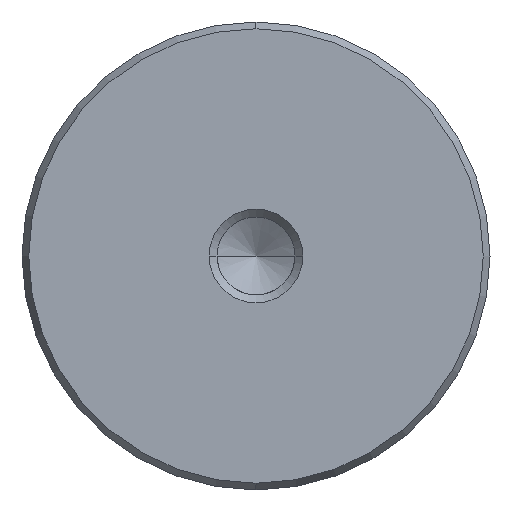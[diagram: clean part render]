
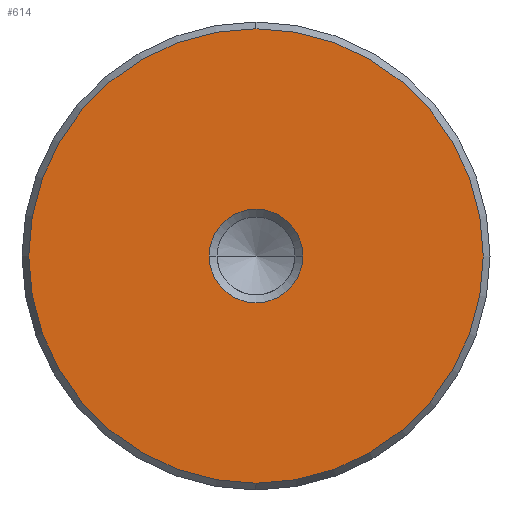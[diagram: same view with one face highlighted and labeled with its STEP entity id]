
A CAD part, left-side view. The second image highlights one B-rep face of the part: STEP entity #614.
In plain terms, the highlighted planar face has unit normal (-1, 0, 0).
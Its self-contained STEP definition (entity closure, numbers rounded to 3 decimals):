
#528=CARTESIAN_POINT('Vertex',(0.,0.,-19.423)) ;
#531=CARTESIAN_POINT('Axis2P3D Location',(0.,0.,0.)) ;
#535=CARTESIAN_POINT('Vertex',(0.,19.423,0.)) ;
#538=CARTESIAN_POINT('Axis2P3D Location',(0.,0.,0.)) ;
#542=CARTESIAN_POINT('Vertex',(0.,0.,19.423)) ;
#564=CARTESIAN_POINT('Axis2P3D Location',(0.,0.,0.)) ;
#568=CARTESIAN_POINT('Vertex',(0.,-19.423,0.)) ;
#571=CARTESIAN_POINT('Axis2P3D Location',(0.,0.,0.)) ;
#585=CARTESIAN_POINT('Axis2P3D Location',(0.,0.,0.)) ;
#596=CARTESIAN_POINT('Axis2P3D Location',(0.,0.,0.)) ;
#600=CARTESIAN_POINT('Vertex',(0.,4.,0.)) ;
#602=CARTESIAN_POINT('Vertex',(0.,-4.,0.)) ;
#605=CARTESIAN_POINT('Axis2P3D Location',(0.,0.,0.)) ;
#532=DIRECTION('Axis2P3D Direction',(1.,0.,-0.)) ;
#539=DIRECTION('Axis2P3D Direction',(1.,0.,-0.)) ;
#565=DIRECTION('Axis2P3D Direction',(1.,0.,-0.)) ;
#572=DIRECTION('Axis2P3D Direction',(1.,0.,-0.)) ;
#586=DIRECTION('Axis2P3D Direction',(1.,0.,-0.)) ;
#587=DIRECTION('Axis2P3D XDirection',(-0.,0.,-1.)) ;
#597=DIRECTION('Axis2P3D Direction',(1.,0.,-0.)) ;
#606=DIRECTION('Axis2P3D Direction',(1.,0.,-0.)) ;
#533=AXIS2_PLACEMENT_3D('Circle Axis2P3D',#531,#532,$) ;
#540=AXIS2_PLACEMENT_3D('Circle Axis2P3D',#538,#539,$) ;
#566=AXIS2_PLACEMENT_3D('Circle Axis2P3D',#564,#565,$) ;
#573=AXIS2_PLACEMENT_3D('Circle Axis2P3D',#571,#572,$) ;
#588=AXIS2_PLACEMENT_3D('Plane Axis2P3D',#585,#586,#587) ;
#598=AXIS2_PLACEMENT_3D('Circle Axis2P3D',#596,#597,$) ;
#607=AXIS2_PLACEMENT_3D('Circle Axis2P3D',#605,#606,$) ;
#591=ORIENTED_EDGE('',*,*,#537,.F.) ;
#592=ORIENTED_EDGE('',*,*,#575,.F.) ;
#593=ORIENTED_EDGE('',*,*,#570,.F.) ;
#594=ORIENTED_EDGE('',*,*,#544,.F.) ;
#611=ORIENTED_EDGE('',*,*,#604,.T.) ;
#612=ORIENTED_EDGE('',*,*,#609,.T.) ;
#613=FACE_BOUND('',#610,.T.) ;
#614=ADVANCED_FACE('720-40x160',(#595,#613),#589,.F.) ;
#534=CIRCLE('generated circle',#533,19.423) ;
#541=CIRCLE('generated circle',#540,19.423) ;
#567=CIRCLE('generated circle',#566,19.423) ;
#574=CIRCLE('generated circle',#573,19.423) ;
#599=CIRCLE('generated circle',#598,4.) ;
#608=CIRCLE('generated circle',#607,4.) ;
#537=EDGE_CURVE('',#529,#536,#534,.T.) ;
#544=EDGE_CURVE('',#536,#543,#541,.T.) ;
#570=EDGE_CURVE('',#543,#569,#567,.T.) ;
#575=EDGE_CURVE('',#569,#529,#574,.T.) ;
#604=EDGE_CURVE('',#601,#603,#599,.T.) ;
#609=EDGE_CURVE('',#603,#601,#608,.T.) ;
#590=EDGE_LOOP('',(#591,#592,#593,#594)) ;
#610=EDGE_LOOP('',(#611,#612)) ;
#595=FACE_OUTER_BOUND('',#590,.T.) ;
#589=PLANE('Plane',#588) ;
#529=VERTEX_POINT('',#528) ;
#536=VERTEX_POINT('',#535) ;
#543=VERTEX_POINT('',#542) ;
#569=VERTEX_POINT('',#568) ;
#601=VERTEX_POINT('',#600) ;
#603=VERTEX_POINT('',#602) ;
